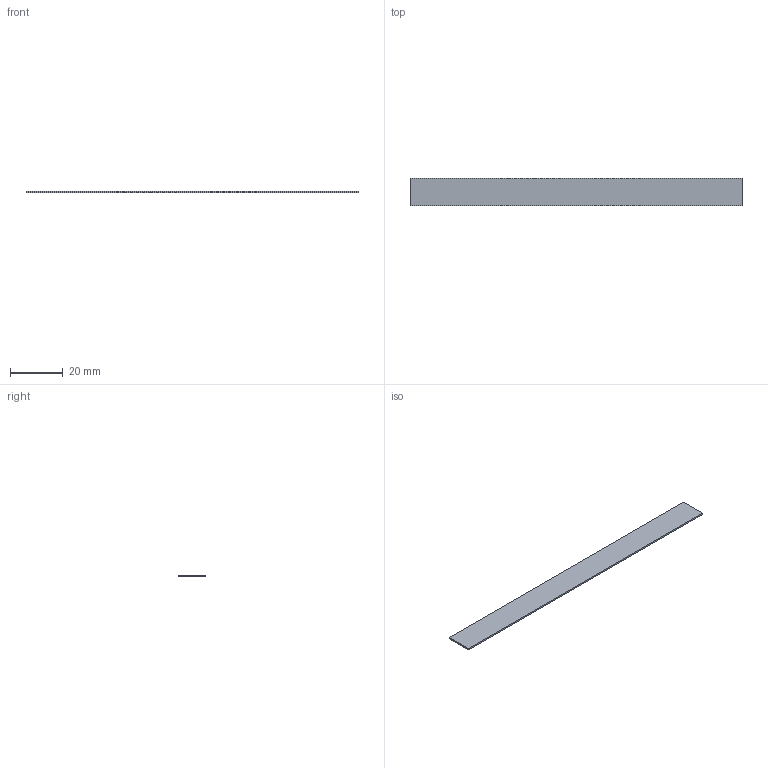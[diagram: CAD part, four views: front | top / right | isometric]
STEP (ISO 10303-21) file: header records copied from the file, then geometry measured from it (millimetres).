
FILE_DESCRIPTION(('Open CASCADE Model'),'2;1');
FILE_NAME('Open CASCADE Shape Model','2026-10-21T18:06:14',('Author'),( 'Open CASCADE'),'Open CASCADE STEP processor 8.0','build123d', 'Unknown');
FILE_SCHEMA(('AUTOMOTIVE_DESIGN { 1 0 10303 214 1 1 1 1 }'));
Length unit declared in the file: millimetre
Products named in the file (2): =>[0:1:1:2]; COMPOUND
Assembly tree (1 placements, depth 2):
  =>[0:1:1:2]
    COMPOUND
Bounding box: 125.85 x 10.3 x 0.6 mm (x, y, z)
Volume: 777.8 mm3; surface area: 2755.9 mm2
Topology: 1 solids, 1 shells, 6 faces, 12 edges, 8 vertices
Faces by surface type: plane 6
Entity records: 340 total; most frequent: CARTESIAN_POINT 52, DIRECTION 52, LINE 36, VECTOR 36, ORIENTED_EDGE 24, PCURVE 24, DEFINITIONAL_REPRESENTATION 24, EDGE_CURVE 12
